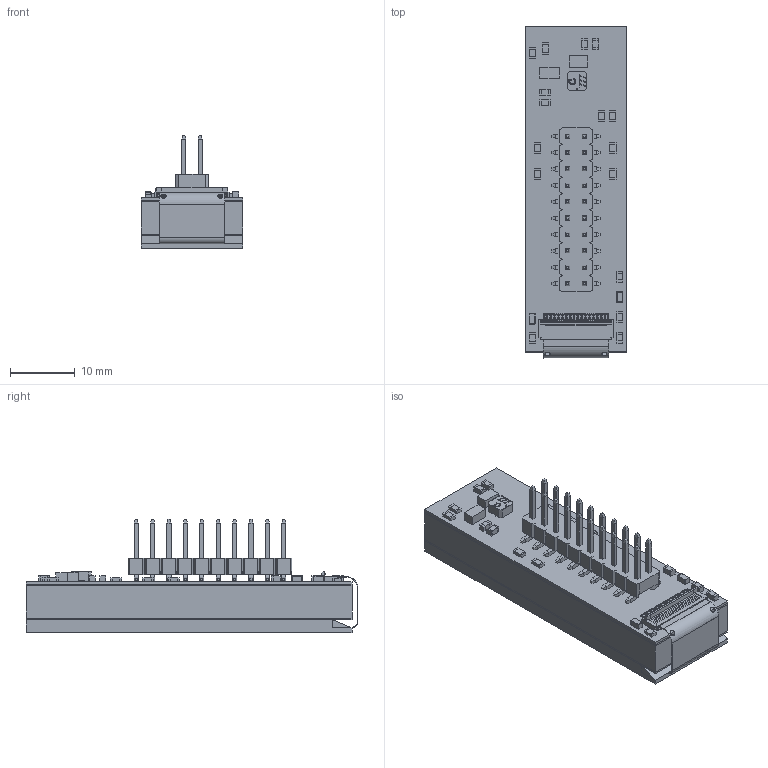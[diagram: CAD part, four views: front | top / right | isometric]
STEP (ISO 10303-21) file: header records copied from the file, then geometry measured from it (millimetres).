
FILE_DESCRIPTION (( 'STEP AP214' ), '1' );
FILE_NAME ('CFAL32128A0-0171WCE1.STEP', '2021-07-29T21:43:06', ( '' ), ( '' ), 'SwSTEP 2.0', 'SolidWorks 2021', '' );
FILE_SCHEMA (( 'AUTOMOTIVE_DESIGN' ));
Length unit declared in the file: millimetre
Products named in the file (5): CFAL32128A0-0171WCE1; CFAL32128A0-0171B-WC; spacers; thin tape; cfa10111
Assembly tree (5 placements, depth 2):
  CFAL32128A0-0171WCE1
    cfa10111
    CFAL32128A0-0171B-WC
    spacers
    thin tape  x2
Bounding box: 15.75 x 51.42 x 17.53 mm (x, y, z)
Volume: 5954.3 mm3; surface area: 10939.6 mm2
Topology: 6 solids, 96 shells, 2851 faces, 7732 edges, 5068 vertices
Faces by surface type: plane 2383, cylinder 441, sphere 16, bspline 11
Entity records: 96675 total; most frequent: CARTESIAN_POINT 21209, ORIENTED_EDGE 15330, DIRECTION 12619, EDGE_CURVE 7704, VECTOR 5177, LINE 5177, VERTEX_POINT 5060, AXIS2_PLACEMENT_3D 3721
